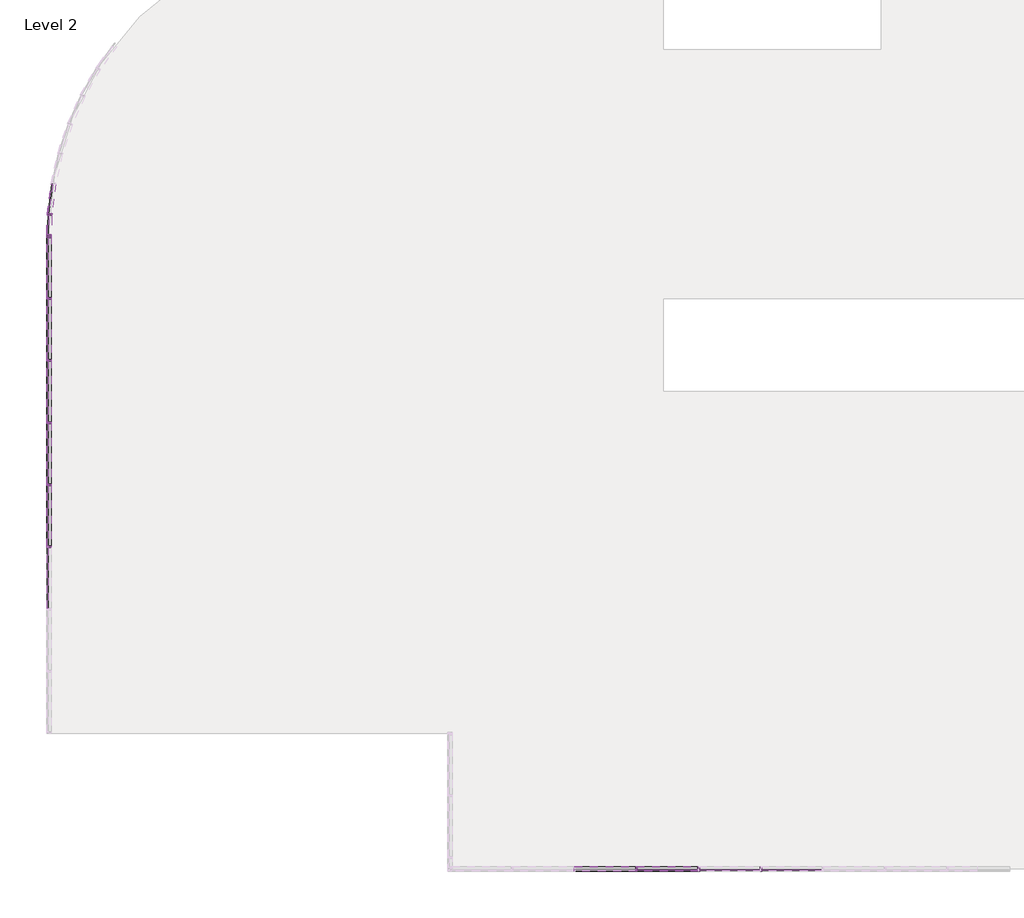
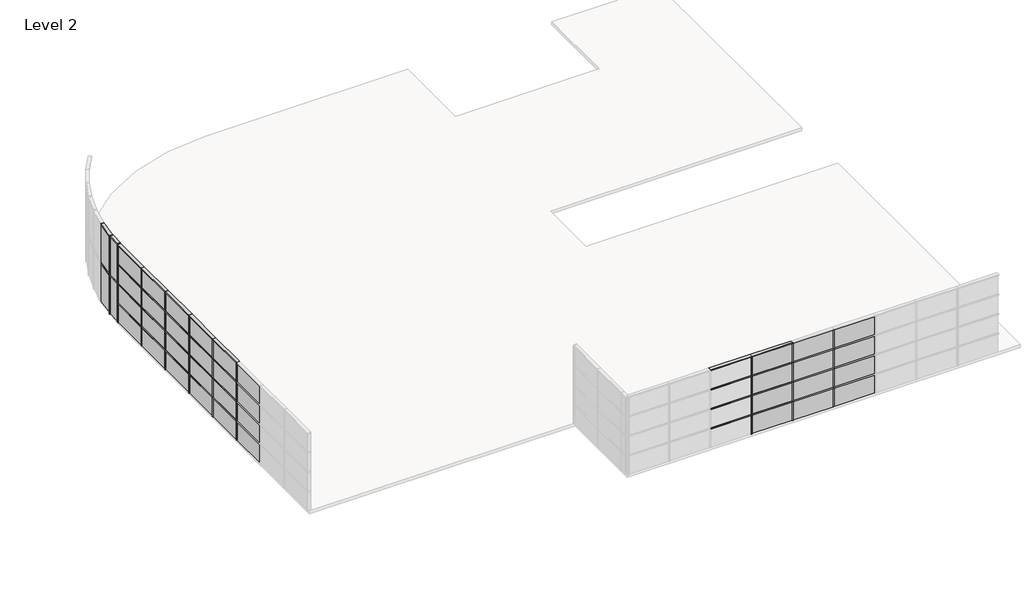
# One storey, part 2 of 6: 72 members, 40 plates.
"""IFC4 building model written with IfcOpenShell, lengths in millimetres."""

from ifc_helpers import new_model, si_unit, origin, place, context, project, spatial, transform, mapped, element, save
from components import rectangular_mullion_50_x_150mm_a053b0ca, rectangular_mullion_50_x_150mm_aa47fe12, rectangular_mullion_50_x_150mm_3a148f0f, rectangular_mullion_50_x_150mm_12a430f9, rectangular_mullion_50_x_150mm_25f32059, rectangular_mullion_50_x_150mm_33fa7e5f, system_panel_glazed_751a585c, system_panel_glazed_08de6f5f, system_panel_glazed_b9387e44, system_panel_glazed_efad819a

model = new_model("IFC4")

# Units and contexts
model_context = context("Model", 3, world=origin())
ifc_project = project(units=[si_unit("LENGTHUNIT", "METRE", prefix="MILLI")], contexts=[model_context])

# Site, building, storey
site = spatial("IfcSite", under=ifc_project)
building = spatial("IfcBuilding", under=site)
storey = spatial("IfcBuildingStorey", under=building, Name="Level 2", Elevation=4000.0)

# Members
placement = place(None, origin())
rectangular_mullion_50_x_150mm_shape = rectangular_mullion_50_x_150mm_a053b0ca(model_context)
element("IfcMember", 1, ObjectType="Rectangular Mullion : 50 x 150mm", at=placement, inside=storey, context=model_context, shape_type="MappedRepresentation", body=[
    mapped(rectangular_mullion_50_x_150mm_shape, transform((412.826594, -21988.7417365, 4025.0), x_axis=(1.0, 0.0, 0.0), y_axis=(0.0, -1.0, 0.0), z_axis=(0.0, 0.0, -1.0))),
])
element("IfcMember", 2, ObjectType="Rectangular Mullion : 50 x 150mm", at=placement, inside=storey, context=model_context, shape_type="MappedRepresentation", body=[
    mapped(rectangular_mullion_50_x_150mm_shape, transform((412.826594, -21988.7417365, 5025.0), x_axis=(1.0, 0.0, 0.0), y_axis=(0.0, -1.0, 0.0), z_axis=(0.0, 0.0, -0.9999999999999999))),
])
element("IfcMember", 3, ObjectType="Rectangular Mullion : 50 x 150mm", at=placement, inside=storey, context=model_context, shape_type="MappedRepresentation", body=[
    mapped(rectangular_mullion_50_x_150mm_shape, transform((412.826594, -21988.7417365, 6025.0), x_axis=(1.0, 0.0, 0.0), y_axis=(0.0, -1.0, 0.0), z_axis=(0.0, 0.0, -0.9999999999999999))),
])
element("IfcMember", 4, ObjectType="Rectangular Mullion : 50 x 150mm", at=placement, inside=storey, context=model_context, shape_type="MappedRepresentation", body=[
    mapped(rectangular_mullion_50_x_150mm_shape, transform((412.826594, -21988.7417365, 7025.0), x_axis=(1.0, 0.0, 0.0), y_axis=(0.0, -1.0, 0.0), z_axis=(0.0, 0.0, -1.0))),
])
element("IfcMember", 5, ObjectType="Rectangular Mullion : 50 x 150mm", at=placement, inside=storey, context=model_context, shape_type="MappedRepresentation", body=[
    mapped(rectangular_mullion_50_x_150mm_shape, transform((2412.826594, -21988.7417365, 4025.0), x_axis=(1.0, 0.0, 0.0), y_axis=(0.0, -1.0, 0.0), z_axis=(0.0, 0.0, -1.0))),
])
element("IfcMember", 6, ObjectType="Rectangular Mullion : 50 x 150mm", at=placement, inside=storey, context=model_context, shape_type="MappedRepresentation", body=[
    mapped(rectangular_mullion_50_x_150mm_shape, transform((2412.826594, -21988.7417365, 5025.0), x_axis=(1.0, 0.0, 0.0), y_axis=(0.0, -1.0, 0.0), z_axis=(0.0, 0.0, -0.9999999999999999))),
])
element("IfcMember", 7, ObjectType="Rectangular Mullion : 50 x 150mm", at=placement, inside=storey, context=model_context, shape_type="MappedRepresentation", body=[
    mapped(rectangular_mullion_50_x_150mm_shape, transform((2412.826594, -21988.7417365, 6025.0), x_axis=(1.0, 0.0, 0.0), y_axis=(0.0, -1.0, 0.0), z_axis=(0.0, 0.0, -0.9999999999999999))),
])
element("IfcMember", 8, ObjectType="Rectangular Mullion : 50 x 150mm", at=placement, inside=storey, context=model_context, shape_type="MappedRepresentation", body=[
    mapped(rectangular_mullion_50_x_150mm_shape, transform((2412.826594, -21988.7417365, 7025.0), x_axis=(1.0, 0.0, 0.0), y_axis=(0.0, -1.0, 0.0), z_axis=(0.0, 0.0, -1.0))),
])
element("IfcMember", 9, ObjectType="Rectangular Mullion : 50 x 150mm", at=placement, inside=storey, context=model_context, shape_type="MappedRepresentation", body=[
    mapped(rectangular_mullion_50_x_150mm_shape, transform((4412.826594, -21988.7417365, 4025.0), x_axis=(1.0, 0.0, 0.0), y_axis=(0.0, -1.0, 0.0), z_axis=(0.0, 0.0, -1.0))),
])
element("IfcMember", 10, ObjectType="Rectangular Mullion : 50 x 150mm", at=placement, inside=storey, context=model_context, shape_type="MappedRepresentation", body=[
    mapped(rectangular_mullion_50_x_150mm_shape, transform((4412.826594, -21988.7417365, 5025.0), x_axis=(1.0, 0.0, 0.0), y_axis=(0.0, -1.0, 0.0), z_axis=(0.0, 0.0, -0.9999999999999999))),
])
element("IfcMember", 11, ObjectType="Rectangular Mullion : 50 x 150mm", at=placement, inside=storey, context=model_context, shape_type="MappedRepresentation", body=[
    mapped(rectangular_mullion_50_x_150mm_shape, transform((4412.826594, -21988.7417365, 6025.0), x_axis=(1.0, 0.0, 0.0), y_axis=(0.0, -1.0, 0.0), z_axis=(0.0, 0.0, -0.9999999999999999))),
])
element("IfcMember", 12, ObjectType="Rectangular Mullion : 50 x 150mm", at=placement, inside=storey, context=model_context, shape_type="MappedRepresentation", body=[
    mapped(rectangular_mullion_50_x_150mm_shape, transform((4412.826594, -21988.7417365, 7025.0), x_axis=(1.0, 0.0, 0.0), y_axis=(0.0, -1.0, 0.0), z_axis=(0.0, 0.0, -1.0))),
])
element("IfcMember", 13, ObjectType="Rectangular Mullion : 50 x 150mm", at=placement, inside=storey, context=model_context, shape_type="MappedRepresentation", body=[
    mapped(rectangular_mullion_50_x_150mm_shape, transform((-18496.7339025, -11624.0160434, 4025.0), x_axis=(0.0, -1.0, 0.0), y_axis=(-1.0, 0.0, 0.0), z_axis=(0.0, 0.0, -1.0))),
])
element("IfcMember", 14, ObjectType="Rectangular Mullion : 50 x 150mm", at=placement, inside=storey, context=model_context, shape_type="MappedRepresentation", body=[
    mapped(rectangular_mullion_50_x_150mm_shape, transform((-18496.7339025, -11624.0160434, 5025.0), x_axis=(0.0, -1.0, 0.0), y_axis=(-1.0, 0.0, 0.0), z_axis=(0.0, 0.0, -0.9999999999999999))),
])
element("IfcMember", 15, ObjectType="Rectangular Mullion : 50 x 150mm", at=placement, inside=storey, context=model_context, shape_type="MappedRepresentation", body=[
    mapped(rectangular_mullion_50_x_150mm_shape, transform((-18496.7339025, -11624.0160434, 6025.0), x_axis=(0.0, -1.0, 0.0), y_axis=(-1.0, 0.0, 0.0), z_axis=(0.0, 0.0, -0.9999999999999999))),
])
element("IfcMember", 16, ObjectType="Rectangular Mullion : 50 x 150mm", at=placement, inside=storey, context=model_context, shape_type="MappedRepresentation", body=[
    mapped(rectangular_mullion_50_x_150mm_shape, transform((-18496.7339025, -11624.0160434, 7025.0), x_axis=(0.0, -1.0, 0.0), y_axis=(-1.0, 0.0, 0.0), z_axis=(0.0, 0.0, -1.0))),
])
element("IfcMember", 17, ObjectType="Rectangular Mullion : 50 x 150mm", at=placement, inside=storey, context=model_context, shape_type="MappedRepresentation", body=[
    mapped(rectangular_mullion_50_x_150mm_shape, transform((-18496.7339025, -7624.0160434, 5025.0), x_axis=(0.0, -1.0, 0.0), y_axis=(-1.0, 0.0, 0.0), z_axis=(0.0, 0.0, -0.9999999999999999))),
])
element("IfcMember", 18, ObjectType="Rectangular Mullion : 50 x 150mm", at=placement, inside=storey, context=model_context, shape_type="MappedRepresentation", body=[
    mapped(rectangular_mullion_50_x_150mm_shape, transform((-18496.7339025, -7624.0160434, 6025.0), x_axis=(0.0, -1.0, 0.0), y_axis=(-1.0, 0.0, 0.0), z_axis=(0.0, 0.0, -0.9999999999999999))),
])
element("IfcMember", 19, ObjectType="Rectangular Mullion : 50 x 150mm", at=placement, inside=storey, context=model_context, shape_type="MappedRepresentation", body=[
    mapped(rectangular_mullion_50_x_150mm_shape, transform((-18496.7339025, -7624.0160434, 7025.0), x_axis=(0.0, -1.0, 0.0), y_axis=(-1.0, 0.0, 0.0), z_axis=(0.0, 0.0, -1.0))),
])
element("IfcMember", 20, ObjectType="Rectangular Mullion : 50 x 150mm", at=placement, inside=storey, context=model_context, shape_type="MappedRepresentation", body=[
    mapped(rectangular_mullion_50_x_150mm_shape, transform((-18496.7339025, -5624.0160434, 7025.0), x_axis=(0.0, -1.0, 0.0), y_axis=(-1.0, 0.0, 0.0), z_axis=(0.0, 0.0, -1.0))),
])
element("IfcMember", 21, ObjectType="Rectangular Mullion : 50 x 150mm", at=placement, inside=storey, context=model_context, shape_type="MappedRepresentation", body=[
    mapped(rectangular_mullion_50_x_150mm_shape, transform((-18496.7339025, -7624.0160434, 4025.0), x_axis=(0.0, -1.0, 0.0), y_axis=(-1.0, 0.0, 0.0), z_axis=(0.0, 0.0, -1.0))),
])
element("IfcMember", 22, ObjectType="Rectangular Mullion : 50 x 150mm", at=placement, inside=storey, context=model_context, shape_type="MappedRepresentation", body=[
    mapped(rectangular_mullion_50_x_150mm_shape, transform((-18496.7339025, -3624.0160434, 4025.0), x_axis=(0.0, -1.0, 0.0), y_axis=(-1.0, 0.0, 0.0), z_axis=(0.0, 0.0, -1.0))),
])
element("IfcMember", 23, ObjectType="Rectangular Mullion : 50 x 150mm", at=placement, inside=storey, context=model_context, shape_type="MappedRepresentation", body=[
    mapped(rectangular_mullion_50_x_150mm_shape, transform((-18496.7339025, -3624.0160434, 5025.0), x_axis=(0.0, -1.0, 0.0), y_axis=(-1.0, 0.0, 0.0), z_axis=(0.0, 0.0, -0.9999999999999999))),
])
element("IfcMember", 24, ObjectType="Rectangular Mullion : 50 x 150mm", at=placement, inside=storey, context=model_context, shape_type="MappedRepresentation", body=[
    mapped(rectangular_mullion_50_x_150mm_shape, transform((-18496.7339025, -3624.0160434, 6025.0), x_axis=(0.0, -1.0, 0.0), y_axis=(-1.0, 0.0, 0.0), z_axis=(0.0, 0.0, -0.9999999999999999))),
])
element("IfcMember", 25, ObjectType="Rectangular Mullion : 50 x 150mm", at=placement, inside=storey, context=model_context, shape_type="MappedRepresentation", body=[
    mapped(rectangular_mullion_50_x_150mm_shape, transform((-18496.7339025, -3624.0160434, 7025.0), x_axis=(0.0, -1.0, 0.0), y_axis=(-1.0, 0.0, 0.0), z_axis=(0.0, 0.0, -1.0))),
])
element("IfcMember", 26, ObjectType="Rectangular Mullion : 50 x 150mm", at=placement, inside=storey, context=model_context, shape_type="MappedRepresentation", body=[
    mapped(rectangular_mullion_50_x_150mm_shape, transform((-18496.7339025, -5624.0160434, 4025.0), x_axis=(0.0, -1.0, 0.0), y_axis=(-1.0, 0.0, 0.0), z_axis=(0.0, 0.0, -1.0))),
])
element("IfcMember", 27, ObjectType="Rectangular Mullion : 50 x 150mm", at=placement, inside=storey, context=model_context, shape_type="MappedRepresentation", body=[
    mapped(rectangular_mullion_50_x_150mm_shape, transform((-18496.7339025, -5624.0160434, 5025.0), x_axis=(0.0, -1.0, 0.0), y_axis=(-1.0, 0.0, 0.0), z_axis=(0.0, 0.0, -0.9999999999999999))),
])
element("IfcMember", 28, ObjectType="Rectangular Mullion : 50 x 150mm", at=placement, inside=storey, context=model_context, shape_type="MappedRepresentation", body=[
    mapped(rectangular_mullion_50_x_150mm_shape, transform((-18496.7339025, -5624.0160434, 6025.0), x_axis=(0.0, -1.0, 0.0), y_axis=(-1.0, 0.0, 0.0), z_axis=(0.0, 0.0, -0.9999999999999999))),
])
element("IfcMember", 29, ObjectType="Rectangular Mullion : 50 x 150mm", at=placement, inside=storey, context=model_context, shape_type="MappedRepresentation", body=[
    mapped(rectangular_mullion_50_x_150mm_shape, transform((-18496.7339025, -9624.0160434, 4025.0), x_axis=(0.0, -1.0, 0.0), y_axis=(-1.0, 0.0, 0.0), z_axis=(0.0, 0.0, -1.0))),
])
element("IfcMember", 30, ObjectType="Rectangular Mullion : 50 x 150mm", at=placement, inside=storey, context=model_context, shape_type="MappedRepresentation", body=[
    mapped(rectangular_mullion_50_x_150mm_shape, transform((-18496.7339025, -9624.0160434, 5025.0), x_axis=(0.0, -1.0, 0.0), y_axis=(-1.0, 0.0, 0.0), z_axis=(0.0, 0.0, -0.9999999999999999))),
])
element("IfcMember", 31, ObjectType="Rectangular Mullion : 50 x 150mm", at=placement, inside=storey, context=model_context, shape_type="MappedRepresentation", body=[
    mapped(rectangular_mullion_50_x_150mm_shape, transform((-18496.7339025, -9624.0160434, 6025.0), x_axis=(0.0, -1.0, 0.0), y_axis=(-1.0, 0.0, 0.0), z_axis=(0.0, 0.0, -0.9999999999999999))),
])
element("IfcMember", 32, ObjectType="Rectangular Mullion : 50 x 150mm", at=placement, inside=storey, context=model_context, shape_type="MappedRepresentation", body=[
    mapped(rectangular_mullion_50_x_150mm_shape, transform((-18496.7339025, -9624.0160434, 7025.0), x_axis=(0.0, -1.0, 0.0), y_axis=(-1.0, 0.0, 0.0), z_axis=(0.0, 0.0, -1.0))),
])
rectangular_mullion_50_x_150mm_2_shape = rectangular_mullion_50_x_150mm_aa47fe12(model_context)
element("IfcMember", 33, ObjectType="Rectangular Mullion : 50 x 150mm", at=placement, inside=storey, context=model_context, shape_type="MappedRepresentation", body=[
    mapped(rectangular_mullion_50_x_150mm_2_shape, transform((-18496.7339025, -1624.0160434, 4000.0), x_axis=(-0.03507811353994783, -0.9993845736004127, 0.0), y_axis=(-0.9993845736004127, 0.03507811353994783, 0.0), z_axis=(0.0, 0.0, -1.0))),
])
element("IfcMember", 34, ObjectType="Rectangular Mullion : 50 x 150mm", at=placement, inside=storey, context=model_context, shape_type="MappedRepresentation", body=[
    mapped(rectangular_mullion_50_x_150mm_2_shape, transform((-18496.7339025, -1624.0160434, 6000.0), x_axis=(-0.03507811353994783, -0.9993845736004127, 0.0), y_axis=(-0.9993845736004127, 0.03507811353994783, 0.0), z_axis=(0.0, 0.0, -1.0))),
])
rectangular_mullion_50_x_150mm_3_shape = rectangular_mullion_50_x_150mm_3a148f0f(model_context)
element("IfcMember", 35, ObjectType="Rectangular Mullion : 50 x 150mm", at=placement, inside=storey, context=model_context, shape_type="MappedRepresentation", body=[
    mapped(rectangular_mullion_50_x_150mm_3_shape, transform((-18496.7339025, -3624.0160434, 5000.0), x_axis=(0.0, 0.0, 1.0), y_axis=(-1.0, 0.0, 0.0), z_axis=(0.0, -0.9999999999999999, 0.0))),
])
element("IfcMember", 36, ObjectType="Rectangular Mullion : 50 x 150mm", at=placement, inside=storey, context=model_context, shape_type="MappedRepresentation", body=[
    mapped(rectangular_mullion_50_x_150mm_3_shape, transform((-18496.7339025, -3624.0160434, 6000.0), x_axis=(0.0, 0.0, 1.0), y_axis=(-1.0, 0.0, 0.0), z_axis=(0.0, -1.0, 0.0))),
])
element("IfcMember", 37, ObjectType="Rectangular Mullion : 50 x 150mm", at=placement, inside=storey, context=model_context, shape_type="MappedRepresentation", body=[
    mapped(rectangular_mullion_50_x_150mm_3_shape, transform((-18496.7339025, -3624.0160434, 7000.0), x_axis=(0.0, 0.0, 1.0), y_axis=(-1.0, 0.0, 0.0), z_axis=(0.0, -1.0, 0.0))),
])
element("IfcMember", 38, ObjectType="Rectangular Mullion : 50 x 150mm", at=placement, inside=storey, context=model_context, shape_type="MappedRepresentation", body=[
    mapped(rectangular_mullion_50_x_150mm_3_shape, transform((-18496.7339025, -3624.0160434, 8000.0), x_axis=(0.0, 0.0, 1.0), y_axis=(-1.0, 0.0, 0.0), z_axis=(0.0, -1.0, 0.0))),
])
element("IfcMember", 39, ObjectType="Rectangular Mullion : 50 x 150mm", at=placement, inside=storey, context=model_context, shape_type="MappedRepresentation", body=[
    mapped(rectangular_mullion_50_x_150mm_3_shape, transform((412.826594, -21988.7417365, 5000.0), x_axis=(0.0, 0.0, 1.0), y_axis=(0.0, -1.0, 0.0), z_axis=(1.0, 0.0, 0.0))),
])
element("IfcMember", 40, ObjectType="Rectangular Mullion : 50 x 150mm", at=placement, inside=storey, context=model_context, shape_type="MappedRepresentation", body=[
    mapped(rectangular_mullion_50_x_150mm_3_shape, transform((2412.826594, -21988.7417365, 5000.0), x_axis=(0.0, 0.0, 1.0), y_axis=(0.0, -1.0, 0.0), z_axis=(1.0, 0.0, 0.0))),
])
element("IfcMember", 41, ObjectType="Rectangular Mullion : 50 x 150mm", at=placement, inside=storey, context=model_context, shape_type="MappedRepresentation", body=[
    mapped(rectangular_mullion_50_x_150mm_3_shape, transform((412.826594, -21988.7417365, 6000.0), x_axis=(0.0, 0.0, 1.0), y_axis=(0.0, -1.0, 0.0), z_axis=(1.0, 0.0, 0.0))),
])
element("IfcMember", 42, ObjectType="Rectangular Mullion : 50 x 150mm", at=placement, inside=storey, context=model_context, shape_type="MappedRepresentation", body=[
    mapped(rectangular_mullion_50_x_150mm_3_shape, transform((2412.826594, -21988.7417365, 6000.0), x_axis=(0.0, 0.0, 1.0), y_axis=(0.0, -1.0, 0.0), z_axis=(1.0, 0.0, 0.0))),
])
element("IfcMember", 43, ObjectType="Rectangular Mullion : 50 x 150mm", at=placement, inside=storey, context=model_context, shape_type="MappedRepresentation", body=[
    mapped(rectangular_mullion_50_x_150mm_3_shape, transform((412.826594, -21988.7417365, 7000.0), x_axis=(0.0, 0.0, 1.0), y_axis=(0.0, -1.0, 0.0), z_axis=(1.0, 0.0, 0.0))),
])
element("IfcMember", 44, ObjectType="Rectangular Mullion : 50 x 150mm", at=placement, inside=storey, context=model_context, shape_type="MappedRepresentation", body=[
    mapped(rectangular_mullion_50_x_150mm_3_shape, transform((2412.826594, -21988.7417365, 7000.0), x_axis=(0.0, 0.0, 1.0), y_axis=(0.0, -1.0, 0.0), z_axis=(1.0, 0.0, 0.0))),
])
element("IfcMember", 45, ObjectType="Rectangular Mullion : 50 x 150mm", at=placement, inside=storey, context=model_context, shape_type="MappedRepresentation", body=[
    mapped(rectangular_mullion_50_x_150mm_3_shape, transform((412.826594, -21988.7417365, 8000.0), x_axis=(0.0, 0.0, 1.0), y_axis=(0.0, -1.0, 0.0), z_axis=(1.0, 0.0, 0.0))),
])
element("IfcMember", 46, ObjectType="Rectangular Mullion : 50 x 150mm", at=placement, inside=storey, context=model_context, shape_type="MappedRepresentation", body=[
    mapped(rectangular_mullion_50_x_150mm_3_shape, transform((2412.826594, -21988.7417365, 8000.0), x_axis=(0.0, 0.0, 1.0), y_axis=(0.0, -1.0, 0.0), z_axis=(1.0, 0.0, 0.0))),
])
element("IfcMember", 47, ObjectType="Rectangular Mullion : 50 x 150mm", at=placement, inside=storey, context=model_context, shape_type="MappedRepresentation", body=[
    mapped(rectangular_mullion_50_x_150mm_3_shape, transform((-18496.7339025, -5624.0160434, 5000.0), x_axis=(0.0, 0.0, 1.0), y_axis=(-1.0, 0.0, 0.0), z_axis=(0.0, -1.0, 0.0))),
])
element("IfcMember", 48, ObjectType="Rectangular Mullion : 50 x 150mm", at=placement, inside=storey, context=model_context, shape_type="MappedRepresentation", body=[
    mapped(rectangular_mullion_50_x_150mm_3_shape, transform((-18496.7339025, -7624.0160434, 5000.0), x_axis=(0.0, 0.0, 1.0), y_axis=(-1.0, 0.0, 0.0), z_axis=(0.0, -1.0, 0.0))),
])
element("IfcMember", 49, ObjectType="Rectangular Mullion : 50 x 150mm", at=placement, inside=storey, context=model_context, shape_type="MappedRepresentation", body=[
    mapped(rectangular_mullion_50_x_150mm_3_shape, transform((-18496.7339025, -9624.0160434, 5000.0), x_axis=(0.0, 0.0, 1.0), y_axis=(-1.0, 0.0, 0.0), z_axis=(0.0, -1.0, 0.0))),
])
element("IfcMember", 50, ObjectType="Rectangular Mullion : 50 x 150mm", at=placement, inside=storey, context=model_context, shape_type="MappedRepresentation", body=[
    mapped(rectangular_mullion_50_x_150mm_3_shape, transform((-18496.7339025, -11624.0160434, 5000.0), x_axis=(0.0, 0.0, 1.0), y_axis=(-1.0, 0.0, 0.0), z_axis=(0.0, -0.9999999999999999, 0.0))),
])
element("IfcMember", 51, ObjectType="Rectangular Mullion : 50 x 150mm", at=placement, inside=storey, context=model_context, shape_type="MappedRepresentation", body=[
    mapped(rectangular_mullion_50_x_150mm_3_shape, transform((-18496.7339025, -5624.0160434, 6000.0), x_axis=(0.0, 0.0, 1.0), y_axis=(-1.0, 0.0, 0.0), z_axis=(0.0, -1.0, 0.0))),
])
element("IfcMember", 52, ObjectType="Rectangular Mullion : 50 x 150mm", at=placement, inside=storey, context=model_context, shape_type="MappedRepresentation", body=[
    mapped(rectangular_mullion_50_x_150mm_3_shape, transform((-18496.7339025, -7624.0160434, 6000.0), x_axis=(0.0, 0.0, 1.0), y_axis=(-1.0, 0.0, 0.0), z_axis=(0.0, -1.0, 0.0))),
])
element("IfcMember", 53, ObjectType="Rectangular Mullion : 50 x 150mm", at=placement, inside=storey, context=model_context, shape_type="MappedRepresentation", body=[
    mapped(rectangular_mullion_50_x_150mm_3_shape, transform((-18496.7339025, -9624.0160434, 6000.0), x_axis=(0.0, 0.0, 1.0), y_axis=(-1.0, 0.0, 0.0), z_axis=(0.0, -1.0, 0.0))),
])
element("IfcMember", 54, ObjectType="Rectangular Mullion : 50 x 150mm", at=placement, inside=storey, context=model_context, shape_type="MappedRepresentation", body=[
    mapped(rectangular_mullion_50_x_150mm_3_shape, transform((-18496.7339025, -11624.0160434, 6000.0), x_axis=(0.0, 0.0, 1.0), y_axis=(-1.0, 0.0, 0.0), z_axis=(0.0, -1.0, 0.0))),
])
element("IfcMember", 55, ObjectType="Rectangular Mullion : 50 x 150mm", at=placement, inside=storey, context=model_context, shape_type="MappedRepresentation", body=[
    mapped(rectangular_mullion_50_x_150mm_3_shape, transform((-18496.7339025, -5624.0160434, 7000.0), x_axis=(0.0, 0.0, 1.0), y_axis=(-1.0, 0.0, 0.0), z_axis=(0.0, -1.0, 0.0))),
])
element("IfcMember", 56, ObjectType="Rectangular Mullion : 50 x 150mm", at=placement, inside=storey, context=model_context, shape_type="MappedRepresentation", body=[
    mapped(rectangular_mullion_50_x_150mm_3_shape, transform((-18496.7339025, -7624.0160434, 7000.0), x_axis=(0.0, 0.0, 1.0), y_axis=(-1.0, 0.0, 0.0), z_axis=(0.0, -1.0, 0.0))),
])
element("IfcMember", 57, ObjectType="Rectangular Mullion : 50 x 150mm", at=placement, inside=storey, context=model_context, shape_type="MappedRepresentation", body=[
    mapped(rectangular_mullion_50_x_150mm_3_shape, transform((-18496.7339025, -9624.0160434, 7000.0), x_axis=(0.0, 0.0, 1.0), y_axis=(-1.0, 0.0, 0.0), z_axis=(0.0, -1.0, 0.0))),
])
element("IfcMember", 58, ObjectType="Rectangular Mullion : 50 x 150mm", at=placement, inside=storey, context=model_context, shape_type="MappedRepresentation", body=[
    mapped(rectangular_mullion_50_x_150mm_3_shape, transform((-18496.7339025, -11624.0160434, 7000.0), x_axis=(0.0, 0.0, 1.0), y_axis=(-1.0, 0.0, 0.0), z_axis=(0.0, -1.0, 0.0))),
])
element("IfcMember", 59, ObjectType="Rectangular Mullion : 50 x 150mm", at=placement, inside=storey, context=model_context, shape_type="MappedRepresentation", body=[
    mapped(rectangular_mullion_50_x_150mm_3_shape, transform((-18496.7339025, -5624.0160434, 8000.0), x_axis=(0.0, 0.0, 1.0), y_axis=(-1.0, 0.0, 0.0), z_axis=(0.0, -1.0, 0.0))),
])
element("IfcMember", 60, ObjectType="Rectangular Mullion : 50 x 150mm", at=placement, inside=storey, context=model_context, shape_type="MappedRepresentation", body=[
    mapped(rectangular_mullion_50_x_150mm_3_shape, transform((-18496.7339025, -7624.0160434, 8000.0), x_axis=(0.0, 0.0, 1.0), y_axis=(-1.0, 0.0, 0.0), z_axis=(0.0, -1.0, 0.0))),
])
element("IfcMember", 61, ObjectType="Rectangular Mullion : 50 x 150mm", at=placement, inside=storey, context=model_context, shape_type="MappedRepresentation", body=[
    mapped(rectangular_mullion_50_x_150mm_3_shape, transform((-18496.7339025, -9624.0160434, 8000.0), x_axis=(0.0, 0.0, 1.0), y_axis=(-1.0, 0.0, 0.0), z_axis=(0.0, -1.0, 0.0))),
])
element("IfcMember", 62, ObjectType="Rectangular Mullion : 50 x 150mm", at=placement, inside=storey, context=model_context, shape_type="MappedRepresentation", body=[
    mapped(rectangular_mullion_50_x_150mm_3_shape, transform((-18496.7339025, -11624.0160434, 8000.0), x_axis=(0.0, 0.0, 1.0), y_axis=(-1.0, 0.0, 0.0), z_axis=(0.0, -1.0, 0.0))),
])
element("IfcMember", 63, ObjectType="Rectangular Mullion : 50 x 150mm", at=placement, inside=storey, context=model_context, shape_type="MappedRepresentation", body=[
    mapped(rectangular_mullion_50_x_150mm_3_shape, transform((-18472.1244215, -922.8855326, 4000.0), x_axis=(-0.07011305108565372, -0.9975390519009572, 0.0), y_axis=(-0.9975390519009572, 0.07011305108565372, 0.0), z_axis=(0.0, 0.0, -1.0))),
])
element("IfcMember", 64, ObjectType="Rectangular Mullion : 50 x 150mm", at=placement, inside=storey, context=model_context, shape_type="MappedRepresentation", body=[
    mapped(rectangular_mullion_50_x_150mm_3_shape, transform((-18472.1244215, -922.8855326, 6000.0), x_axis=(-0.07011305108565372, -0.9975390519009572, 0.0), y_axis=(-0.9975390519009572, 0.07011305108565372, 0.0), z_axis=(0.0, 0.0, -1.0))),
])
rectangular_mullion_50_x_150mm_4_shape = rectangular_mullion_50_x_150mm_12a430f9(model_context)
element("IfcMember", 65, ObjectType="Rectangular Mullion : 50 x 150mm", at=placement, inside=storey, context=model_context, shape_type="MappedRepresentation", body=[
    mapped(rectangular_mullion_50_x_150mm_4_shape, transform((-18496.7339025, -1624.0160434, 4975.0), x_axis=(0.0, 1.0, 0.0), y_axis=(-1.0, 0.0, 0.0), z_axis=(0.0, 0.0, 1.0))),
])
element("IfcMember", 66, ObjectType="Rectangular Mullion : 50 x 150mm", at=placement, inside=storey, context=model_context, shape_type="MappedRepresentation", body=[
    mapped(rectangular_mullion_50_x_150mm_4_shape, transform((-18496.7339025, -1624.0160434, 5975.0), x_axis=(0.0, 1.0, 0.0), y_axis=(-1.0, 0.0, 0.0), z_axis=(0.0, 0.0, 0.9999999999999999))),
])
element("IfcMember", 67, ObjectType="Rectangular Mullion : 50 x 150mm", at=placement, inside=storey, context=model_context, shape_type="MappedRepresentation", body=[
    mapped(rectangular_mullion_50_x_150mm_4_shape, transform((-18496.7339025, -1624.0160434, 6975.0), x_axis=(0.0, 1.0, 0.0), y_axis=(-1.0, 0.0, 0.0), z_axis=(0.0, 0.0, 0.9999999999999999))),
])
element("IfcMember", 68, ObjectType="Rectangular Mullion : 50 x 150mm", at=placement, inside=storey, context=model_context, shape_type="MappedRepresentation", body=[
    mapped(rectangular_mullion_50_x_150mm_4_shape, transform((-18496.7339025, -1624.0160434, 7975.0), x_axis=(0.0, 1.0, 0.0), y_axis=(-1.0, 0.0, 0.0), z_axis=(0.0, 0.0, 1.0))),
])
rectangular_mullion_50_x_150mm_5_shape = rectangular_mullion_50_x_150mm_25f32059(model_context)
element("IfcMember", 69, ObjectType="Rectangular Mullion : 50 x 150mm", at=placement, inside=storey, context=model_context, shape_type="MappedRepresentation", body=[
    mapped(rectangular_mullion_50_x_150mm_5_shape, transform((-18469.1268638, -898.0658902, 8000.0), x_axis=(0.0, 0.0, 0.9999999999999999), y_axis=(-0.9927856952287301, 0.1199023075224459, 0.0), z_axis=(-0.11990230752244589, -0.99278569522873, 0.0))),
])
element("IfcMember", 70, ObjectType="Rectangular Mullion : 50 x 150mm", at=placement, inside=storey, context=model_context, shape_type="MappedRepresentation", body=[
    mapped(rectangular_mullion_50_x_150mm_5_shape, transform((-18469.1268638, -898.0658902, 6000.0), x_axis=(0.0, 0.0, 0.9999999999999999), y_axis=(-0.9927856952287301, 0.1199023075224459, 0.0), z_axis=(-0.11990230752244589, -0.99278569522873, 0.0))),
])
rectangular_mullion_50_x_150mm_6_shape = rectangular_mullion_50_x_150mm_33fa7e5f(model_context)
element("IfcMember", 71, ObjectType="Rectangular Mullion : 50 x 150mm", at=placement, inside=storey, context=model_context, shape_type="MappedRepresentation", body=[
    mapped(rectangular_mullion_50_x_150mm_6_shape, transform((-18494.9799968, -1574.0468148, 8000.0), x_axis=(0.0, 0.0, 1.0), y_axis=(-0.9993845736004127, 0.03507811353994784, 0.0), z_axis=(-0.03507811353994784, -0.9993845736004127, 0.0))),
])
element("IfcMember", 72, ObjectType="Rectangular Mullion : 50 x 150mm", at=placement, inside=storey, context=model_context, shape_type="MappedRepresentation", body=[
    mapped(rectangular_mullion_50_x_150mm_6_shape, transform((-18494.9799968, -1574.0468148, 6000.0), x_axis=(0.0, 0.0, 1.0), y_axis=(-0.9993845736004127, 0.03507811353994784, 0.0), z_axis=(-0.03507811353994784, -0.9993845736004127, 0.0))),
])

# Plates
system_panel_glazed_shape = system_panel_glazed_751a585c(model_context)
element("IfcPlate", 73, ObjectType="System Panel : Glazed", at=placement, inside=storey, context=model_context, shape_type="MappedRepresentation", body=[
    mapped(system_panel_glazed_shape, transform((-18496.7339025, -1674.0160434, 4500.0), x_axis=(0.0, 0.0, 1.0), y_axis=(-1.0, 0.0, 0.0), z_axis=(0.0, -1.0, 0.0))),
])
element("IfcPlate", 74, ObjectType="System Panel : Glazed", at=placement, inside=storey, context=model_context, shape_type="MappedRepresentation", body=[
    mapped(system_panel_glazed_shape, transform((-18496.7339025, -1674.0160434, 5500.0), x_axis=(0.0, 0.0, 1.0), y_axis=(-1.0, 0.0, 0.0), z_axis=(0.0, -1.0, 0.0))),
])
element("IfcPlate", 75, ObjectType="System Panel : Glazed", at=placement, inside=storey, context=model_context, shape_type="MappedRepresentation", body=[
    mapped(system_panel_glazed_shape, transform((-18496.7339025, -1674.0160434, 6500.0), x_axis=(0.0, 0.0, 1.0), y_axis=(-1.0, 0.0, 0.0), z_axis=(0.0, -1.0, 0.0))),
])
element("IfcPlate", 76, ObjectType="System Panel : Glazed", at=placement, inside=storey, context=model_context, shape_type="MappedRepresentation", body=[
    mapped(system_panel_glazed_shape, transform((-18496.7339025, -1674.0160434, 7500.0), x_axis=(0.0, 0.0, 1.0), y_axis=(-1.0, 0.0, 0.0), z_axis=(0.0, -1.0, 0.0))),
])
system_panel_glazed_2_shape = system_panel_glazed_08de6f5f(model_context)
element("IfcPlate", 77, ObjectType="System Panel : Glazed", at=placement, inside=storey, context=model_context, shape_type="MappedRepresentation", body=[
    mapped(system_panel_glazed_2_shape, transform((437.826594, -21988.7417365, 4500.0), x_axis=(0.0, 0.0, 1.0), y_axis=(0.0, -1.0, 0.0), z_axis=(1.0, 0.0, 0.0))),
])
element("IfcPlate", 78, ObjectType="System Panel : Glazed", at=placement, inside=storey, context=model_context, shape_type="MappedRepresentation", body=[
    mapped(system_panel_glazed_2_shape, transform((437.826594, -21988.7417365, 5500.0), x_axis=(0.0, 0.0, 1.0), y_axis=(0.0, -1.0, 0.0), z_axis=(1.0, 0.0, 0.0))),
])
element("IfcPlate", 79, ObjectType="System Panel : Glazed", at=placement, inside=storey, context=model_context, shape_type="MappedRepresentation", body=[
    mapped(system_panel_glazed_2_shape, transform((437.826594, -21988.7417365, 6500.0), x_axis=(0.0, 0.0, 1.0), y_axis=(0.0, -1.0, 0.0), z_axis=(1.0, 0.0, 0.0))),
])
element("IfcPlate", 80, ObjectType="System Panel : Glazed", at=placement, inside=storey, context=model_context, shape_type="MappedRepresentation", body=[
    mapped(system_panel_glazed_2_shape, transform((437.826594, -21988.7417365, 7500.0), x_axis=(0.0, 0.0, 1.0), y_axis=(0.0, -1.0, 0.0), z_axis=(1.0, 0.0, 0.0))),
])
element("IfcPlate", 81, ObjectType="System Panel : Glazed", at=placement, inside=storey, context=model_context, shape_type="MappedRepresentation", body=[
    mapped(system_panel_glazed_2_shape, transform((2437.826594, -21988.7417365, 4500.0), x_axis=(0.0, 0.0, 1.0), y_axis=(0.0, -1.0, 0.0), z_axis=(1.0, 0.0, 0.0))),
])
element("IfcPlate", 82, ObjectType="System Panel : Glazed", at=placement, inside=storey, context=model_context, shape_type="MappedRepresentation", body=[
    mapped(system_panel_glazed_2_shape, transform((2437.826594, -21988.7417365, 5500.0), x_axis=(0.0, 0.0, 1.0), y_axis=(0.0, -1.0, 0.0), z_axis=(1.0, 0.0, 0.0))),
])
element("IfcPlate", 83, ObjectType="System Panel : Glazed", at=placement, inside=storey, context=model_context, shape_type="MappedRepresentation", body=[
    mapped(system_panel_glazed_2_shape, transform((2437.826594, -21988.7417365, 6500.0), x_axis=(0.0, 0.0, 1.0), y_axis=(0.0, -1.0, 0.0), z_axis=(1.0, 0.0, 0.0))),
])
element("IfcPlate", 84, ObjectType="System Panel : Glazed", at=placement, inside=storey, context=model_context, shape_type="MappedRepresentation", body=[
    mapped(system_panel_glazed_2_shape, transform((2437.826594, -21988.7417365, 7500.0), x_axis=(0.0, 0.0, 1.0), y_axis=(0.0, -1.0, 0.0), z_axis=(1.0, 0.0, 0.0))),
])
element("IfcPlate", 85, ObjectType="System Panel : Glazed", at=placement, inside=storey, context=model_context, shape_type="MappedRepresentation", body=[
    mapped(system_panel_glazed_2_shape, transform((4437.826594, -21988.7417365, 4500.0), x_axis=(0.0, 0.0, 1.0), y_axis=(0.0, -1.0, 0.0), z_axis=(1.0, 0.0, 0.0))),
])
element("IfcPlate", 86, ObjectType="System Panel : Glazed", at=placement, inside=storey, context=model_context, shape_type="MappedRepresentation", body=[
    mapped(system_panel_glazed_2_shape, transform((4437.826594, -21988.7417365, 5500.0), x_axis=(0.0, 0.0, 1.0), y_axis=(0.0, -1.0, 0.0), z_axis=(1.0, 0.0, 0.0))),
])
element("IfcPlate", 87, ObjectType="System Panel : Glazed", at=placement, inside=storey, context=model_context, shape_type="MappedRepresentation", body=[
    mapped(system_panel_glazed_2_shape, transform((4437.826594, -21988.7417365, 6500.0), x_axis=(0.0, 0.0, 1.0), y_axis=(0.0, -1.0, 0.0), z_axis=(1.0, 0.0, 0.0))),
])
element("IfcPlate", 88, ObjectType="System Panel : Glazed", at=placement, inside=storey, context=model_context, shape_type="MappedRepresentation", body=[
    mapped(system_panel_glazed_2_shape, transform((4437.826594, -21988.7417365, 7500.0), x_axis=(0.0, 0.0, 1.0), y_axis=(0.0, -1.0, 0.0), z_axis=(1.0, 0.0, 0.0))),
])
element("IfcPlate", 89, ObjectType="System Panel : Glazed", at=placement, inside=storey, context=model_context, shape_type="MappedRepresentation", body=[
    mapped(system_panel_glazed_2_shape, transform((-18496.7339025, -3649.0160434, 4500.0), x_axis=(0.0, 0.0, 1.0), y_axis=(-1.0, 0.0, 0.0), z_axis=(0.0, -1.0, 0.0))),
])
element("IfcPlate", 90, ObjectType="System Panel : Glazed", at=placement, inside=storey, context=model_context, shape_type="MappedRepresentation", body=[
    mapped(system_panel_glazed_2_shape, transform((-18496.7339025, -5649.0160434, 4500.0), x_axis=(0.0, 0.0, 1.0), y_axis=(-1.0, 0.0, 0.0), z_axis=(0.0, -1.0, 0.0))),
])
element("IfcPlate", 91, ObjectType="System Panel : Glazed", at=placement, inside=storey, context=model_context, shape_type="MappedRepresentation", body=[
    mapped(system_panel_glazed_2_shape, transform((-18496.7339025, -7649.0160434, 4500.0), x_axis=(0.0, 0.0, 1.0), y_axis=(-1.0, 0.0, 0.0), z_axis=(0.0, -1.0, 0.0))),
])
element("IfcPlate", 92, ObjectType="System Panel : Glazed", at=placement, inside=storey, context=model_context, shape_type="MappedRepresentation", body=[
    mapped(system_panel_glazed_2_shape, transform((-18496.7339025, -9649.0160434, 4500.0), x_axis=(0.0, 0.0, 1.0), y_axis=(-1.0, 0.0, 0.0), z_axis=(0.0, -1.0, 0.0))),
])
element("IfcPlate", 93, ObjectType="System Panel : Glazed", at=placement, inside=storey, context=model_context, shape_type="MappedRepresentation", body=[
    mapped(system_panel_glazed_2_shape, transform((-18496.7339025, -11649.0160434, 4500.0), x_axis=(0.0, 0.0, 1.0), y_axis=(-1.0, 0.0, 0.0), z_axis=(0.0, -1.0, 0.0))),
])
element("IfcPlate", 94, ObjectType="System Panel : Glazed", at=placement, inside=storey, context=model_context, shape_type="MappedRepresentation", body=[
    mapped(system_panel_glazed_2_shape, transform((-18496.7339025, -3649.0160434, 5500.0), x_axis=(0.0, 0.0, 1.0), y_axis=(-1.0, 0.0, 0.0), z_axis=(0.0, -1.0, 0.0))),
])
element("IfcPlate", 95, ObjectType="System Panel : Glazed", at=placement, inside=storey, context=model_context, shape_type="MappedRepresentation", body=[
    mapped(system_panel_glazed_2_shape, transform((-18496.7339025, -5649.0160434, 5500.0), x_axis=(0.0, 0.0, 1.0), y_axis=(-1.0, 0.0, 0.0), z_axis=(0.0, -1.0, 0.0))),
])
element("IfcPlate", 96, ObjectType="System Panel : Glazed", at=placement, inside=storey, context=model_context, shape_type="MappedRepresentation", body=[
    mapped(system_panel_glazed_2_shape, transform((-18496.7339025, -7649.0160434, 5500.0), x_axis=(0.0, 0.0, 1.0), y_axis=(-1.0, 0.0, 0.0), z_axis=(0.0, -1.0, 0.0))),
])
element("IfcPlate", 97, ObjectType="System Panel : Glazed", at=placement, inside=storey, context=model_context, shape_type="MappedRepresentation", body=[
    mapped(system_panel_glazed_2_shape, transform((-18496.7339025, -9649.0160434, 5500.0), x_axis=(0.0, 0.0, 1.0), y_axis=(-1.0, 0.0, 0.0), z_axis=(0.0, -1.0, 0.0))),
])
element("IfcPlate", 98, ObjectType="System Panel : Glazed", at=placement, inside=storey, context=model_context, shape_type="MappedRepresentation", body=[
    mapped(system_panel_glazed_2_shape, transform((-18496.7339025, -11649.0160434, 5500.0), x_axis=(0.0, 0.0, 1.0), y_axis=(-1.0, 0.0, 0.0), z_axis=(0.0, -1.0, 0.0))),
])
element("IfcPlate", 99, ObjectType="System Panel : Glazed", at=placement, inside=storey, context=model_context, shape_type="MappedRepresentation", body=[
    mapped(system_panel_glazed_2_shape, transform((-18496.7339025, -3649.0160434, 6500.0), x_axis=(0.0, 0.0, 1.0), y_axis=(-1.0, 0.0, 0.0), z_axis=(0.0, -1.0, 0.0))),
])
element("IfcPlate", 100, ObjectType="System Panel : Glazed", at=placement, inside=storey, context=model_context, shape_type="MappedRepresentation", body=[
    mapped(system_panel_glazed_2_shape, transform((-18496.7339025, -5649.0160434, 6500.0), x_axis=(0.0, 0.0, 1.0), y_axis=(-1.0, 0.0, 0.0), z_axis=(0.0, -1.0, 0.0))),
])
element("IfcPlate", 101, ObjectType="System Panel : Glazed", at=placement, inside=storey, context=model_context, shape_type="MappedRepresentation", body=[
    mapped(system_panel_glazed_2_shape, transform((-18496.7339025, -7649.0160434, 6500.0), x_axis=(0.0, 0.0, 1.0), y_axis=(-1.0, 0.0, 0.0), z_axis=(0.0, -1.0, 0.0))),
])
element("IfcPlate", 102, ObjectType="System Panel : Glazed", at=placement, inside=storey, context=model_context, shape_type="MappedRepresentation", body=[
    mapped(system_panel_glazed_2_shape, transform((-18496.7339025, -9649.0160434, 6500.0), x_axis=(0.0, 0.0, 1.0), y_axis=(-1.0, 0.0, 0.0), z_axis=(0.0, -1.0, 0.0))),
])
element("IfcPlate", 103, ObjectType="System Panel : Glazed", at=placement, inside=storey, context=model_context, shape_type="MappedRepresentation", body=[
    mapped(system_panel_glazed_2_shape, transform((-18496.7339025, -11649.0160434, 6500.0), x_axis=(0.0, 0.0, 1.0), y_axis=(-1.0, 0.0, 0.0), z_axis=(0.0, -1.0, 0.0))),
])
element("IfcPlate", 104, ObjectType="System Panel : Glazed", at=placement, inside=storey, context=model_context, shape_type="MappedRepresentation", body=[
    mapped(system_panel_glazed_2_shape, transform((-18496.7339025, -3649.0160434, 7500.0), x_axis=(0.0, 0.0, 1.0), y_axis=(-1.0, 0.0, 0.0), z_axis=(0.0, -1.0, 0.0))),
])
element("IfcPlate", 105, ObjectType="System Panel : Glazed", at=placement, inside=storey, context=model_context, shape_type="MappedRepresentation", body=[
    mapped(system_panel_glazed_2_shape, transform((-18496.7339025, -5649.0160434, 7500.0), x_axis=(0.0, 0.0, 1.0), y_axis=(-1.0, 0.0, 0.0), z_axis=(0.0, -1.0, 0.0))),
])
element("IfcPlate", 106, ObjectType="System Panel : Glazed", at=placement, inside=storey, context=model_context, shape_type="MappedRepresentation", body=[
    mapped(system_panel_glazed_2_shape, transform((-18496.7339025, -7649.0160434, 7500.0), x_axis=(0.0, 0.0, 1.0), y_axis=(-1.0, 0.0, 0.0), z_axis=(0.0, -1.0, 0.0))),
])
element("IfcPlate", 107, ObjectType="System Panel : Glazed", at=placement, inside=storey, context=model_context, shape_type="MappedRepresentation", body=[
    mapped(system_panel_glazed_2_shape, transform((-18496.7339025, -9649.0160434, 7500.0), x_axis=(0.0, 0.0, 1.0), y_axis=(-1.0, 0.0, 0.0), z_axis=(0.0, -1.0, 0.0))),
])
element("IfcPlate", 108, ObjectType="System Panel : Glazed", at=placement, inside=storey, context=model_context, shape_type="MappedRepresentation", body=[
    mapped(system_panel_glazed_2_shape, transform((-18496.7339025, -11649.0160434, 7500.0), x_axis=(0.0, 0.0, 1.0), y_axis=(-1.0, 0.0, 0.0), z_axis=(0.0, -1.0, 0.0))),
])
system_panel_glazed_3_shape = system_panel_glazed_b9387e44(model_context)
element("IfcPlate", 109, ObjectType="System Panel : Glazed", at=placement, inside=storey, context=model_context, shape_type="MappedRepresentation", body=[
    mapped(system_panel_glazed_3_shape, transform((-18412.1732677, -426.492685, 4025.0), x_axis=(-0.11990230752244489, -0.9927856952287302, 0.0), y_axis=(0.9927856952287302, -0.11990230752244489, 0.0), z_axis=(0.0, 0.0, 1.0))),
])
element("IfcPlate", 110, ObjectType="System Panel : Glazed", at=placement, inside=storey, context=model_context, shape_type="MappedRepresentation", body=[
    mapped(system_panel_glazed_3_shape, transform((-18412.1732677, -426.492685, 6025.0), x_axis=(-0.11990230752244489, -0.9927856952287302, 0.0), y_axis=(0.9927856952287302, -0.11990230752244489, 0.0), z_axis=(0.0, 0.0, 1.0))),
])
system_panel_glazed_4_shape = system_panel_glazed_efad819a(model_context)
element("IfcPlate", 111, ObjectType="System Panel : Glazed", at=placement, inside=storey, context=model_context, shape_type="MappedRepresentation", body=[
    mapped(system_panel_glazed_4_shape, transform((-18483.9906856, -1260.9584808, 4025.0), x_axis=(-0.03507811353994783, -0.9993845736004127, 0.0), y_axis=(0.9993845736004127, -0.03507811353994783, 0.0), z_axis=(0.0, 0.0, 1.0))),
])
element("IfcPlate", 112, ObjectType="System Panel : Glazed", at=placement, inside=storey, context=model_context, shape_type="MappedRepresentation", body=[
    mapped(system_panel_glazed_4_shape, transform((-18483.9906856, -1260.9584808, 6025.0), x_axis=(-0.03507811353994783, -0.9993845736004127, 0.0), y_axis=(0.9993845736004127, -0.03507811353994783, 0.0), z_axis=(0.0, 0.0, 1.0))),
])

save(model, "model.ifc")
